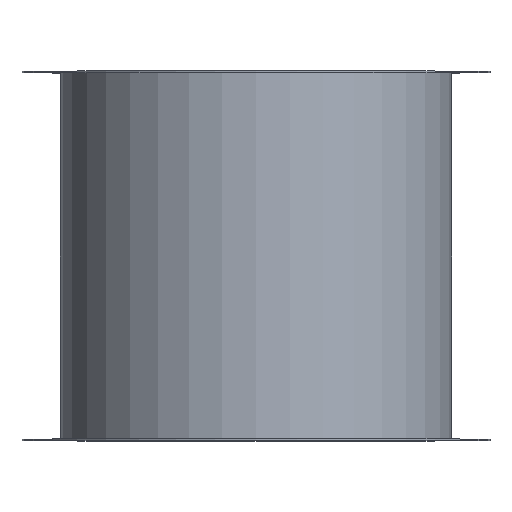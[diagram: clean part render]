
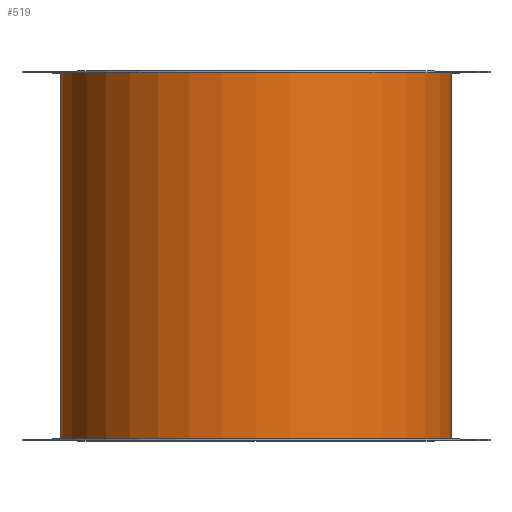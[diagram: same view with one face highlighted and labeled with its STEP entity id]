
A CAD part, top view. The second image highlights one B-rep face of the part: STEP entity #519.
In plain terms, the highlighted cylindrical face has radius 158.75 mm (diameter 317.5 mm), a full revolution.
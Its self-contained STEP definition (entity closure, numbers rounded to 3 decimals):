
#75=FACE_OUTER_BOUND('',#117,.T.);
#117=EDGE_LOOP('',(#443,#444,#445,#446,#447,#448));
#157=LINE('',#909,#177);
#177=VECTOR('',#765,158.75);
#219=CIRCLE('',#603,158.75);
#220=CIRCLE('',#604,158.75);
#221=CIRCLE('',#606,158.75);
#222=CIRCLE('',#607,158.75);
#267=VERTEX_POINT('',#900);
#268=VERTEX_POINT('',#901);
#269=VERTEX_POINT('',#905);
#270=VERTEX_POINT('',#906);
#333=EDGE_CURVE('',#267,#268,#219,.T.);
#334=EDGE_CURVE('',#268,#267,#220,.T.);
#335=EDGE_CURVE('',#269,#270,#221,.T.);
#336=EDGE_CURVE('',#270,#269,#222,.T.);
#337=EDGE_CURVE('',#270,#268,#157,.T.);
#443=ORIENTED_EDGE('',*,*,#335,.F.);
#444=ORIENTED_EDGE('',*,*,#336,.F.);
#445=ORIENTED_EDGE('',*,*,#337,.T.);
#446=ORIENTED_EDGE('',*,*,#334,.T.);
#447=ORIENTED_EDGE('',*,*,#333,.T.);
#448=ORIENTED_EDGE('',*,*,#337,.F.);
#497=CYLINDRICAL_SURFACE('',#605,158.75);
#519=ADVANCED_FACE('',(#75),#497,.T.);
#603=AXIS2_PLACEMENT_3D('',#902,#755,#756);
#604=AXIS2_PLACEMENT_3D('',#903,#757,#758);
#605=AXIS2_PLACEMENT_3D('',#904,#759,#760);
#606=AXIS2_PLACEMENT_3D('',#907,#761,#762);
#607=AXIS2_PLACEMENT_3D('',#908,#763,#764);
#755=DIRECTION('center_axis',(0.,1.,0.));
#756=DIRECTION('ref_axis',(1.,0.,0.));
#757=DIRECTION('center_axis',(0.,1.,0.));
#758=DIRECTION('ref_axis',(1.,0.,0.));
#759=DIRECTION('center_axis',(0.,1.,0.));
#760=DIRECTION('ref_axis',(-1.,0.,0.));
#761=DIRECTION('center_axis',(0.,1.,0.));
#762=DIRECTION('ref_axis',(1.,0.,0.));
#763=DIRECTION('center_axis',(0.,1.,0.));
#764=DIRECTION('ref_axis',(1.,0.,0.));
#765=DIRECTION('',(0.,-1.,0.));
#900=CARTESIAN_POINT('',(-158.75,1.25,0.));
#901=CARTESIAN_POINT('',(158.75,1.25,0.));
#902=CARTESIAN_POINT('Origin',(0.,1.25,0.));
#903=CARTESIAN_POINT('Origin',(0.,1.25,0.));
#904=CARTESIAN_POINT('Origin',(0.,150.,0.));
#905=CARTESIAN_POINT('',(-158.75,298.75,0.));
#906=CARTESIAN_POINT('',(158.75,298.75,0.));
#907=CARTESIAN_POINT('Origin',(0.,298.75,0.));
#908=CARTESIAN_POINT('Origin',(0.,298.75,0.));
#909=CARTESIAN_POINT('',(158.75,150.,0.));
